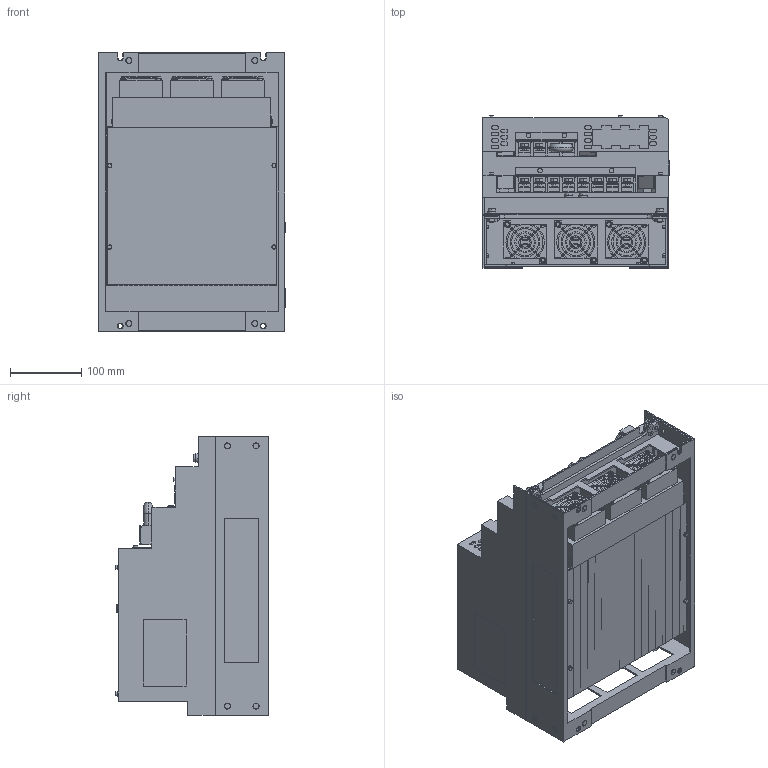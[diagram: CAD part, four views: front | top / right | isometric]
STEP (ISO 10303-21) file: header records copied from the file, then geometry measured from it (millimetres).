
FILE_DESCRIPTION((''),'2;1');
FILE_NAME('SGDXS-590A00A_ASM','2022-04-29T',('qiaochen_shen'),('Yaskawa Electric (Shenyang) Co.,Ltd'),'PRO/ENGINEER BY PARAMETRIC TECHNOLOGY CORPORATION, 2017170','PRO/ENGINEER BY PARAMETRIC TECHNOLOGY CORPORATION, 2017170','');
FILE_SCHEMA(('AUTOMOTIVE_DESIGN { 1 0 10303 214 1 1 1 1 }'));
Products named in the file (9): SGDXS-590A00A_BASE; SGDXS-590A00A_COVER1; SGDXS-590A00A_COVER2; SGDXS-590A00A_COVER3; SGDXS-590A00A_COVER4; SGDXS-590A00A_COVER5_AF0; SGDXS-590A00A_CONNECTOR1; SGDXS-590A00A_SHEET; SGDXS-590A00A_ASM
Assembly tree (8 placements, depth 2):
  SGDXS-590A00A_ASM
    SGDXS-590A00A_BASE
    SGDXS-590A00A_COVER1
    SGDXS-590A00A_COVER2
    SGDXS-590A00A_COVER3
    SGDXS-590A00A_COVER4
    SGDXS-590A00A_COVER5_AF0
    SGDXS-590A00A_CONNECTOR1
    SGDXS-590A00A_SHEET
Bounding box: 260.61 x 213.2 x 390 mm (x, y, z)
Volume: 12499863.4 mm3; surface area: 1628830.7 mm2
Topology: 24 solids, 24 shells, 3269 faces, 8791 edges, 5724 vertices
Faces by surface type: plane 2367, cylinder 694, torus 112, cone 64, bspline 32
Entity records: 130944 total; most frequent: CARTESIAN_POINT 22163, ORIENTED_EDGE 17582, DIRECTION 16701, EDGE_CURVE 8791, VECTOR 6929, LINE 6929, VERTEX_POINT 5724, AXIS2_PLACEMENT_3D 4886
